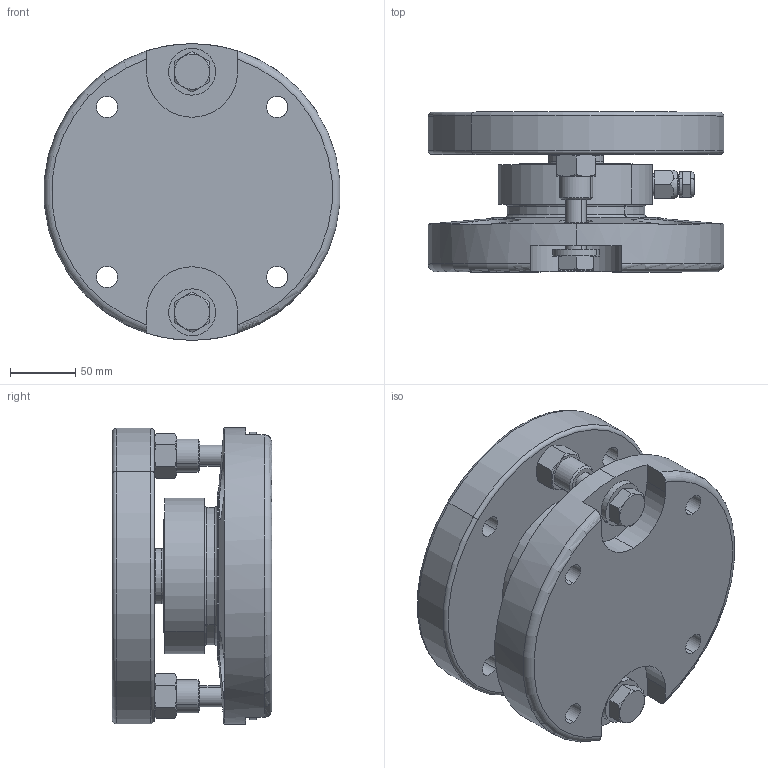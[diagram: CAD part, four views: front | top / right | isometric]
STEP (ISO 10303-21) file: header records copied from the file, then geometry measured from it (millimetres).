
FILE_DESCRIPTION (( 'STEP AP203' ), '1' );
FILE_NAME ('Load Point_HI HPLP-XX-44KLB-66KLB.STEP', '2013-09-27T16:43:55', ( 'Jim' ), ( 'Hewlett-Packard Company' ), 'SwSTEP 2.0', 'SolidWorks 2013', '' );
FILE_SCHEMA (( 'CONFIG_CONTROL_DESIGN' ));
Length unit declared in the file: millimetre
Products named in the file (15): 44KLB-66KLB - Diaphram; 44KLB-66KLB - Base plate; 44KLB-66KLB - Cable adaptor; 44KLB-66KLB - Mount bottom plate_hold down; 44KLB-66KLB - Grommet; 44KLB-66KLB - Mount top plate; 44KLB-66KLB - Weld Base; 44KLB-66KLB - Washer; 44KLB-66KLB - Cable Nut; 44KLB-66KLB - Insert; Load Sensor_HI HP50-SS-44KLB-66KLB; heavy hex bolt_am_B18.2.3.6M - Heavy hex bolt M16 x 2.0 x 110 --38C-A2.70; Load Point_HI HPLP-XX-44KLB-66KLB; 44KLB-66KLB - Collar Nut; 44KLB-66KLB - Element
Assembly tree (18 placements, depth 3):
  Load Point_HI HPLP-XX-44KLB-66KLB
    44KLB-66KLB - Base plate
    44KLB-66KLB - Mount bottom plate_hold down
    44KLB-66KLB - Mount top plate
    44KLB-66KLB - Washer  x2
    44KLB-66KLB - Insert
    heavy hex bolt_am_B18.2.3.6M - Heavy hex bolt M16 x 2.0 x 110 --38C-A2.70  x2
    44KLB-66KLB - Collar Nut  x2
    Load Sensor_HI HP50-SS-44KLB-66KLB
      44KLB-66KLB - Element
      44KLB-66KLB - Diaphram  x2
      44KLB-66KLB - Cable adaptor
      44KLB-66KLB - Grommet
      44KLB-66KLB - Weld Base
      44KLB-66KLB - Cable Nut
Bounding box: 227.31 x 122.75 x 228 mm (x, y, z)
Volume: 3195297.6 mm3; surface area: 371581.3 mm2
Topology: 17 solids, 17 shells, 383 faces, 845 edges, 525 vertices
Faces by surface type: cylinder 147, plane 126, cone 72, torus 36, sphere 2
Entity records: 11177 total; most frequent: CARTESIAN_POINT 2360, DIRECTION 1629, ORIENTED_EDGE 1374, AXIS2_PLACEMENT_3D 691, EDGE_CURVE 687, VERTEX_POINT 431, EDGE_LOOP 372, CIRCLE 362
